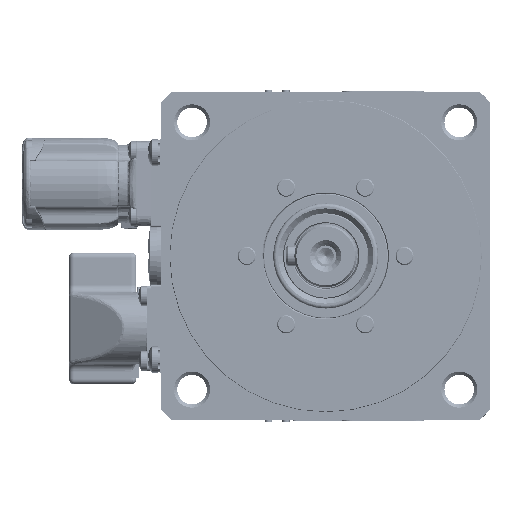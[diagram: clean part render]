
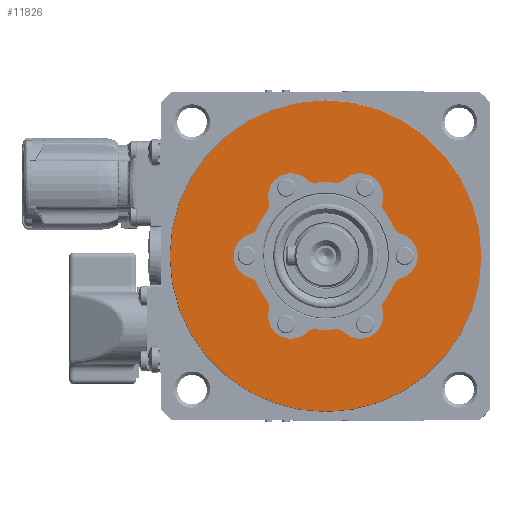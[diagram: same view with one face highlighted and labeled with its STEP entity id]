
A CAD part, left-side view. The second image highlights one B-rep face of the part: STEP entity #11826.
In plain terms, the highlighted planar face has unit normal (-1, 0, 0).
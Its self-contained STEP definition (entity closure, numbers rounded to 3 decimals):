
#186=CARTESIAN_POINT('',(1.,0.,
0.));
#187=DIRECTION('',(-1.,0.,0.));
#188=DIRECTION('',(0.,1.,0.));
#189=AXIS2_PLACEMENT_3D('',#186,#187,#188);
#194=CARTESIAN_POINT('',(1.,0.,
0.));
#195=DIRECTION('',(-1.,0.,0.));
#196=DIRECTION('',(0.,-1.,0.));
#197=AXIS2_PLACEMENT_3D('',#194,#195,#196);
#202=CARTESIAN_POINT('',(1.,0.,0.));
#203=DIRECTION('',(-1.,0.,0.));
#204=DIRECTION('',(0.,0.926,-0.379));
#205=AXIS2_PLACEMENT_3D('',#202,#203,#204);
#232=CARTESIAN_POINT('',(1.,0.,0.));
#233=DIRECTION('',(-1.,0.,0.));
#234=DIRECTION('',(0.,0.135,-0.991));
#235=AXIS2_PLACEMENT_3D('',#232,#233,#234);
#262=CARTESIAN_POINT('',(1.,0.,0.));
#263=DIRECTION('',(-1.,0.,0.));
#264=DIRECTION('',(0.,-0.791,-0.612));
#265=AXIS2_PLACEMENT_3D('',#262,#263,#264);
#292=CARTESIAN_POINT('',(1.,0.,0.));
#293=DIRECTION('',(-1.,0.,0.));
#294=DIRECTION('',(0.,-0.926,0.379));
#295=AXIS2_PLACEMENT_3D('',#292,#293,#294);
#322=CARTESIAN_POINT('',(1.,0.,0.));
#323=DIRECTION('',(-1.,0.,0.));
#324=DIRECTION('',(0.,-0.135,0.991));
#325=AXIS2_PLACEMENT_3D('',#322,#323,#324);
#359=CARTESIAN_POINT('',(1.,0.,0.));
#360=DIRECTION('',(-1.,0.,0.));
#361=DIRECTION('',(0.,0.791,0.612));
#362=AXIS2_PLACEMENT_3D('',#359,#360,#361);
#382=CARTESIAN_POINT('',(1.,23.601,-9.656));
#383=DIRECTION('',(-1.,0.,0.));
#384=DIRECTION('',(0.,-0.926,0.379));
#385=AXIS2_PLACEMENT_3D('',#382,#383,#384);
#398=CARTESIAN_POINT('',(1.,21.,0.));
#399=DIRECTION('',(-1.,0.,0.));
#400=DIRECTION('',(0.,0.26,0.966));
#401=AXIS2_PLACEMENT_3D('',#398,#399,#400);
#420=CARTESIAN_POINT('',(1.,23.601,9.656));
#421=DIRECTION('',(1.,0.,0.));
#422=DIRECTION('',(0.,-0.926,-0.379));
#423=AXIS2_PLACEMENT_3D('',#420,#421,#422);
#596=CARTESIAN_POINT('',(1.,20.163,15.611));
#597=DIRECTION('',(-1.,0.,0.));
#598=DIRECTION('',(0.,-0.791,-0.612));
#599=AXIS2_PLACEMENT_3D('',#596,#597,#598);
#612=CARTESIAN_POINT('',(1.,10.5,18.187));
#613=DIRECTION('',(-1.,0.,0.));
#614=DIRECTION('',(0.,-0.706,0.708));
#615=AXIS2_PLACEMENT_3D('',#612,#613,#614);
#634=CARTESIAN_POINT('',(1.,3.438,25.267));
#635=DIRECTION('',(1.,0.,0.));
#636=DIRECTION('',(0.,-0.135,-0.991));
#637=AXIS2_PLACEMENT_3D('',#634,#635,#636);
#650=CARTESIAN_POINT('',(1.,-3.438,25.267));
#651=DIRECTION('',(-1.,0.,0.));
#652=DIRECTION('',(0.,0.135,-0.991));
#653=AXIS2_PLACEMENT_3D('',#650,#651,#652);
#666=CARTESIAN_POINT('',(1.,-10.5,18.187));
#667=DIRECTION('',(-1.,0.,0.));
#668=DIRECTION('',(0.,-0.966,-0.258));
#669=AXIS2_PLACEMENT_3D('',#666,#667,#668);
#688=CARTESIAN_POINT('',(1.,-20.163,15.611));
#689=DIRECTION('',(1.,0.,0.));
#690=DIRECTION('',(0.,0.791,-0.612));
#691=AXIS2_PLACEMENT_3D('',#688,#689,#690);
#704=CARTESIAN_POINT('',(1.,-23.601,9.656));
#705=DIRECTION('',(-1.,0.,0.));
#706=DIRECTION('',(0.,0.926,-0.379));
#707=AXIS2_PLACEMENT_3D('',#704,#705,#706);
#720=CARTESIAN_POINT('',(1.,-21.,0.));
#721=DIRECTION('',(-1.,0.,0.));
#722=DIRECTION('',(0.,-0.26,-0.966));
#723=AXIS2_PLACEMENT_3D('',#720,#721,#722);
#742=CARTESIAN_POINT('',(1.,-23.601,-9.656));
#743=DIRECTION('',(1.,0.,0.));
#744=DIRECTION('',(0.,0.926,0.379));
#745=AXIS2_PLACEMENT_3D('',#742,#743,#744);
#758=CARTESIAN_POINT('',(1.,-20.163,-15.611));
#759=DIRECTION('',(-1.,0.,0.));
#760=DIRECTION('',(0.,0.791,0.612));
#761=AXIS2_PLACEMENT_3D('',#758,#759,#760);
#774=CARTESIAN_POINT('',(1.,-10.5,-18.187));
#775=DIRECTION('',(-1.,0.,0.));
#776=DIRECTION('',(0.,0.706,-0.708));
#777=AXIS2_PLACEMENT_3D('',#774,#775,#776);
#796=CARTESIAN_POINT('',(1.,-3.438,-25.267));
#797=DIRECTION('',(1.,0.,0.));
#798=DIRECTION('',(0.,0.135,0.991));
#799=AXIS2_PLACEMENT_3D('',#796,#797,#798);
#812=CARTESIAN_POINT('',(1.,3.438,-25.267));
#813=DIRECTION('',(-1.,0.,0.));
#814=DIRECTION('',(0.,-0.135,0.991));
#815=AXIS2_PLACEMENT_3D('',#812,#813,#814);
#828=CARTESIAN_POINT('',(1.,10.5,-18.187));
#829=DIRECTION('',(-1.,0.,0.));
#830=DIRECTION('',(0.,0.966,0.258));
#831=AXIS2_PLACEMENT_3D('',#828,#829,#830);
#850=CARTESIAN_POINT('',(1.,20.163,-15.611));
#851=DIRECTION('',(1.,0.,0.));
#852=DIRECTION('',(0.,-0.791,0.612));
#853=AXIS2_PLACEMENT_3D('',#850,#851,#852);
#10738=CARTESIAN_POINT('',(1.,47.361,0.));
#10739=CARTESIAN_POINT('',(1.,-47.361,
0.));
#10740=VERTEX_POINT('',#10738);
#10741=VERTEX_POINT('',#10739);
#10870=CARTESIAN_POINT('',(1.,20.825,-8.52));
#10871=CARTESIAN_POINT('',(1.,17.791,-13.775));
#10872=VERTEX_POINT('',#10870);
#10873=VERTEX_POINT('',#10871);
#10874=CARTESIAN_POINT('',(1.,3.034,-22.295));
#10875=CARTESIAN_POINT('',(1.,-3.034,-22.295));
#10876=VERTEX_POINT('',#10874);
#10877=VERTEX_POINT('',#10875);
#10878=CARTESIAN_POINT('',(1.,-17.791,-13.775));
#10879=CARTESIAN_POINT('',(1.,-20.825,-8.52));
#10880=VERTEX_POINT('',#10878);
#10881=VERTEX_POINT('',#10879);
#10882=CARTESIAN_POINT('',(1.,-20.825,8.52));
#10883=CARTESIAN_POINT('',(1.,-17.791,13.775));
#10884=VERTEX_POINT('',#10882);
#10885=VERTEX_POINT('',#10883);
#10886=CARTESIAN_POINT('',(1.,-3.034,22.295));
#10887=CARTESIAN_POINT('',(1.,3.034,22.295));
#10888=VERTEX_POINT('',#10886);
#10889=VERTEX_POINT('',#10887);
#10890=CARTESIAN_POINT('',(1.,22.821,6.759));
#10891=CARTESIAN_POINT('',(1.,22.821,-6.759));
#10892=VERTEX_POINT('',#10890);
#10893=VERTEX_POINT('',#10891);
#10894=CARTESIAN_POINT('',(1.,17.264,-16.384));
#10895=CARTESIAN_POINT('',(1.,5.557,-23.143));
#10896=VERTEX_POINT('',#10894);
#10897=VERTEX_POINT('',#10895);
#10898=CARTESIAN_POINT('',(1.,-5.557,-23.143));
#10899=CARTESIAN_POINT('',(1.,-17.264,-16.384));
#10900=VERTEX_POINT('',#10898);
#10901=VERTEX_POINT('',#10899);
#10902=CARTESIAN_POINT('',(1.,-22.821,-6.759));
#10903=CARTESIAN_POINT('',(1.,-22.821,6.759));
#10904=VERTEX_POINT('',#10902);
#10905=VERTEX_POINT('',#10903);
#10906=CARTESIAN_POINT('',(1.,-17.264,16.384));
#10907=CARTESIAN_POINT('',(1.,-5.557,23.143));
#10908=VERTEX_POINT('',#10906);
#10909=VERTEX_POINT('',#10907);
#10958=CARTESIAN_POINT('',(1.,20.825,8.52));
#10959=VERTEX_POINT('',#10958);
#11100=CARTESIAN_POINT('',(1.,17.791,13.775));
#11101=VERTEX_POINT('',#11100);
#11102=CARTESIAN_POINT('',(1.,5.557,23.143));
#11103=CARTESIAN_POINT('',(1.,17.264,16.384));
#11104=VERTEX_POINT('',#11102);
#11105=VERTEX_POINT('',#11103);
#11767=CARTESIAN_POINT('',(1.,0.,0.));
#11768=DIRECTION('',(1.,0.,0.));
#11769=DIRECTION('',(0.,-1.,0.));
#11770=AXIS2_PLACEMENT_3D('',#11767,#11768,#11769);
#11771=PLANE('',#11770);
#11772=ORIENTED_EDGE('',*,*,#11762,.F.);
#11773=ORIENTED_EDGE('',*,*,#11746,.F.);
#11774=EDGE_LOOP('',(#11772,#11773));
#11775=FACE_OUTER_BOUND('',#11774,.F.);
#11777=ORIENTED_EDGE('',*,*,#11776,.T.);
#11779=ORIENTED_EDGE('',*,*,#11778,.T.);
#11781=ORIENTED_EDGE('',*,*,#11780,.T.);
#11783=ORIENTED_EDGE('',*,*,#11782,.F.);
#11785=ORIENTED_EDGE('',*,*,#11784,.T.);
#11787=ORIENTED_EDGE('',*,*,#11786,.T.);
#11789=ORIENTED_EDGE('',*,*,#11788,.T.);
#11791=ORIENTED_EDGE('',*,*,#11790,.F.);
#11793=ORIENTED_EDGE('',*,*,#11792,.T.);
#11795=ORIENTED_EDGE('',*,*,#11794,.T.);
#11797=ORIENTED_EDGE('',*,*,#11796,.T.);
#11799=ORIENTED_EDGE('',*,*,#11798,.F.);
#11801=ORIENTED_EDGE('',*,*,#11800,.T.);
#11803=ORIENTED_EDGE('',*,*,#11802,.T.);
#11805=ORIENTED_EDGE('',*,*,#11804,.T.);
#11807=ORIENTED_EDGE('',*,*,#11806,.F.);
#11809=ORIENTED_EDGE('',*,*,#11808,.T.);
#11811=ORIENTED_EDGE('',*,*,#11810,.T.);
#11813=ORIENTED_EDGE('',*,*,#11812,.T.);
#11815=ORIENTED_EDGE('',*,*,#11814,.F.);
#11817=ORIENTED_EDGE('',*,*,#11816,.T.);
#11819=ORIENTED_EDGE('',*,*,#11818,.T.);
#11821=ORIENTED_EDGE('',*,*,#11820,.T.);
#11823=ORIENTED_EDGE('',*,*,#11822,.F.);
#11824=EDGE_LOOP('',(#11777,#11779,#11781,#11783,#11785,#11787,#11789,#11791,
#11793,#11795,#11797,#11799,#11801,#11803,#11805,#11807,#11809,#11811,#11813,
#11815,#11817,#11819,#11821,#11823));
#11825=FACE_BOUND('',#11824,.F.);
#190=CIRCLE('',#189,47.361);
#198=CIRCLE('',#197,47.361);
#206=CIRCLE('',#205,22.5);
#236=CIRCLE('',#235,22.5);
#266=CIRCLE('',#265,22.5);
#296=CIRCLE('',#295,22.5);
#326=CIRCLE('',#325,22.5);
#363=CIRCLE('',#362,22.5);
#386=CIRCLE('',#385,3.);
#402=CIRCLE('',#401,7.);
#424=CIRCLE('',#423,3.);
#600=CIRCLE('',#599,3.);
#616=CIRCLE('',#615,7.);
#638=CIRCLE('',#637,3.);
#654=CIRCLE('',#653,3.);
#670=CIRCLE('',#669,7.);
#692=CIRCLE('',#691,3.);
#708=CIRCLE('',#707,3.);
#724=CIRCLE('',#723,7.);
#746=CIRCLE('',#745,3.);
#762=CIRCLE('',#761,3.);
#778=CIRCLE('',#777,7.);
#800=CIRCLE('',#799,3.);
#816=CIRCLE('',#815,3.);
#832=CIRCLE('',#831,7.);
#854=CIRCLE('',#853,3.);
#11746=EDGE_CURVE('',#10741,#10740,#198,.T.);
#11762=EDGE_CURVE('',#10740,#10741,#190,.T.);
#11776=EDGE_CURVE('',#10872,#10873,#206,.T.);
#11778=EDGE_CURVE('',#10873,#10896,#854,.T.);
#11780=EDGE_CURVE('',#10896,#10897,#832,.T.);
#11782=EDGE_CURVE('',#10876,#10897,#816,.T.);
#11784=EDGE_CURVE('',#10876,#10877,#236,.T.);
#11786=EDGE_CURVE('',#10877,#10900,#800,.T.);
#11788=EDGE_CURVE('',#10900,#10901,#778,.T.);
#11790=EDGE_CURVE('',#10880,#10901,#762,.T.);
#11792=EDGE_CURVE('',#10880,#10881,#266,.T.);
#11794=EDGE_CURVE('',#10881,#10904,#746,.T.);
#11796=EDGE_CURVE('',#10904,#10905,#724,.T.);
#11798=EDGE_CURVE('',#10884,#10905,#708,.T.);
#11800=EDGE_CURVE('',#10884,#10885,#296,.T.);
#11802=EDGE_CURVE('',#10885,#10908,#692,.T.);
#11804=EDGE_CURVE('',#10908,#10909,#670,.T.);
#11806=EDGE_CURVE('',#10888,#10909,#654,.T.);
#11808=EDGE_CURVE('',#10888,#10889,#326,.T.);
#11810=EDGE_CURVE('',#10889,#11104,#638,.T.);
#11812=EDGE_CURVE('',#11104,#11105,#616,.T.);
#11814=EDGE_CURVE('',#11101,#11105,#600,.T.);
#11816=EDGE_CURVE('',#11101,#10959,#363,.T.);
#11818=EDGE_CURVE('',#10959,#10892,#424,.T.);
#11820=EDGE_CURVE('',#10892,#10893,#402,.T.);
#11822=EDGE_CURVE('',#10872,#10893,#386,.T.);
#11826=ADVANCED_FACE('',(#11775,#11825),#11771,.F.);
